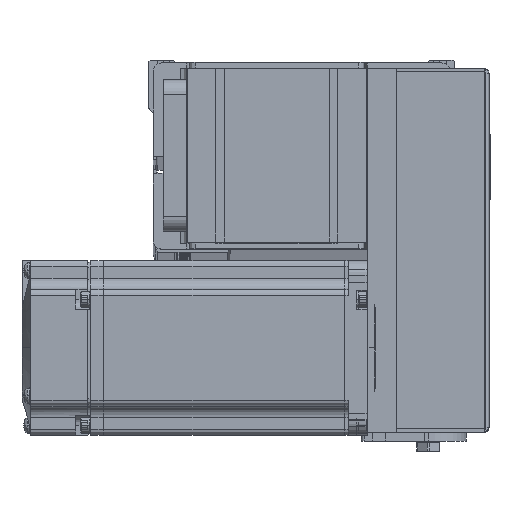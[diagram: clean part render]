
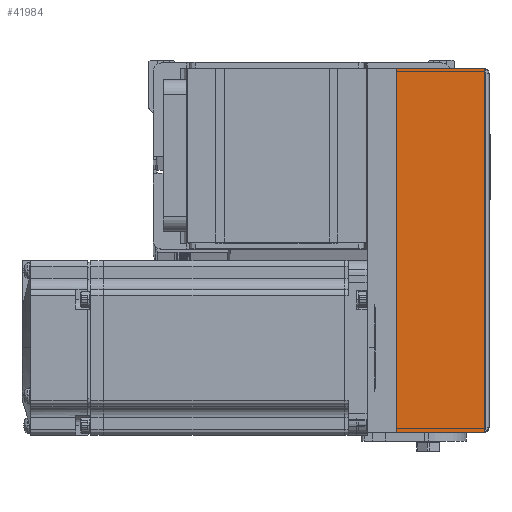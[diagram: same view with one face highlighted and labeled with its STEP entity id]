
A CAD part, top view. The second image highlights one B-rep face of the part: STEP entity #41984.
In plain terms, the highlighted planar face has unit normal (0, 0, 1).
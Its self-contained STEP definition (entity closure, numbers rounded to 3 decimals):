
#427 = CARTESIAN_POINT ( 'NONE',  ( -62.5, -30.3, 31. ) ) ;
#507 = EDGE_CURVE ( 'NONE', #31184, #13007, #28048, .T. ) ;
#2014 = LINE ( 'NONE', #38078, #13224 ) ;
#2478 = CARTESIAN_POINT ( 'NONE',  ( 62.5, -30.3, 31. ) ) ;
#2669 = ORIENTED_EDGE ( 'NONE', *, *, #19179, .F. ) ;
#3575 = LINE ( 'NONE', #427, #34957 ) ;
#3611 = CARTESIAN_POINT ( 'NONE',  ( -62.5, -30.3, 31. ) ) ;
#5469 = DIRECTION ( 'NONE',  ( -1., 0., 0. ) ) ;
#5785 = EDGE_LOOP ( 'NONE', ( #2669, #11099, #33312, #10545 ) ) ;
#8789 = DIRECTION ( 'NONE',  ( -1., 0., 0. ) ) ;
#9636 = CARTESIAN_POINT ( 'NONE',  ( 62.5, -30.3, 31. ) ) ;
#10545 = ORIENTED_EDGE ( 'NONE', *, *, #22986, .F. ) ;
#11099 = ORIENTED_EDGE ( 'NONE', *, *, #507, .T. ) ;
#13007 = VERTEX_POINT ( 'NONE', #15203 ) ;
#13224 = VECTOR ( 'NONE', #8789, 1000. ) ;
#15203 = CARTESIAN_POINT ( 'NONE',  ( 62.5, 0., 31. ) ) ;
#16340 = DIRECTION ( 'NONE',  ( 0., -1., 0. ) ) ;
#17019 = CARTESIAN_POINT ( 'NONE',  ( -62.5, 0., 31. ) ) ;
#19179 = EDGE_CURVE ( 'NONE', #31184, #43074, #2014, .T. ) ;
#22849 = VECTOR ( 'NONE', #24434, 1000. ) ;
#22986 = EDGE_CURVE ( 'NONE', #43074, #29925, #3575, .T. ) ;
#23861 = DIRECTION ( 'NONE',  ( 0., 0., -1. ) ) ;
#24379 = EDGE_CURVE ( 'NONE', #13007, #29925, #38392, .T. ) ;
#24434 = DIRECTION ( 'NONE',  ( 0., 1., 0. ) ) ;
#28048 = LINE ( 'NONE', #9636, #22849 ) ;
#29606 = VECTOR ( 'NONE', #5469, 1000. ) ;
#29925 = VERTEX_POINT ( 'NONE', #17019 ) ;
#31184 = VERTEX_POINT ( 'NONE', #2478 ) ;
#33312 = ORIENTED_EDGE ( 'NONE', *, *, #24379, .T. ) ;
#34252 = CARTESIAN_POINT ( 'NONE',  ( 0., -30.8, 31. ) ) ;
#34957 = VECTOR ( 'NONE', #44456, 1000. ) ;
#35589 = AXIS2_PLACEMENT_3D ( 'NONE', #34252, #23861, #16340 ) ;
#38078 = CARTESIAN_POINT ( 'NONE',  ( -62.5, -30.3, 31. ) ) ;
#38112 = FACE_OUTER_BOUND ( 'NONE', #5785, .T. ) ;
#38392 = LINE ( 'NONE', #38635, #29606 ) ;
#38635 = CARTESIAN_POINT ( 'NONE',  ( 0., 0., 31. ) ) ;
#38835 = PLANE ( 'NONE',  #35589 ) ;
#41984 = ADVANCED_FACE ( 'NONE', ( #38112 ), #38835, .F. ) ;
#43074 = VERTEX_POINT ( 'NONE', #3611 ) ;
#44456 = DIRECTION ( 'NONE',  ( 0., 1., 0. ) ) ;
